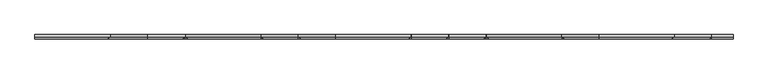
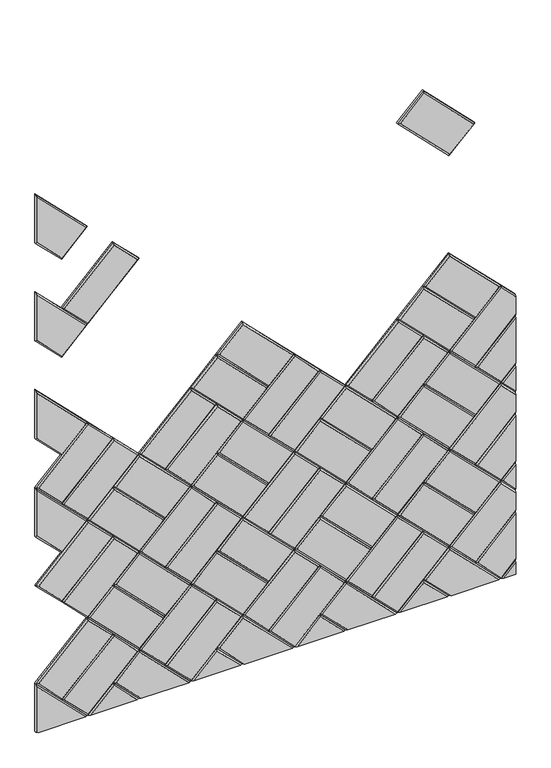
"""IFC4 building model written with IfcOpenShell, lengths in millimetres: proxy geometry, Wall_Wisteria 4.3dm."""

from ifc_helpers import new_model, si_unit, origin, place, context, project, spatial, faceted_brep, source, transform, mapped, element, save


def generic_models_0e09693b(model_context):
    return source(origin(), model_context, "Body", "Brep", [
        faceted_brep([(3978.3082201, 12.0, 1937.6733118), (3762.8097032, 12.0, 2153.2270852), (3870.5865899, 12.0, 2260.9763436), (4086.0851068, 12.0, 2045.4225703), (3978.3082201, 6.0, 1937.6733118), (4086.0851068, 6.0, 2045.4225703), (3870.5865899, 6.0, 2260.9763436), (3762.8097032, 6.0, 2153.2270852), (3870.5855022, 0.0, 2252.4910623), (3771.2949845, 0.0, 2153.2259975), (3978.3093078, 0.0, 1946.1585931), (4077.5998255, 0.0, 2045.423658)], [[[0, 1, 2, 3]], [[4, 0, 3, 5]], [[5, 3, 2, 6]], [[6, 2, 1, 7]], [[7, 1, 0, 4]], [[8, 9, 10, 11]], [[4, 5, 11, 10]], [[5, 6, 8, 11]], [[6, 7, 9, 8]], [[7, 4, 10, 9]]]),
        faceted_brep([(2361.8483335, 12.0, 1830.117992), (2577.4021069, 12.0, 2045.6165089), (2685.1513653, 12.0, 1937.8396222), (2469.5975919, 12.0, 1722.3411053), (2361.8483335, 6.0, 1830.117992), (2469.5975919, 6.0, 1722.3411053), (2685.1513653, 6.0, 1937.8396222), (2577.4021069, 6.0, 2045.6165089), (2676.666084, 0.0, 1937.8407099), (2577.4010192, 0.0, 2037.1312275), (2370.3336148, 0.0, 1830.1169043), (2469.5986797, 0.0, 1730.8263866)], [[[0, 1, 2, 3]], [[4, 0, 3, 5]], [[5, 3, 2, 6]], [[6, 2, 1, 7]], [[7, 1, 0, 4]], [[8, 9, 10, 11]], [[4, 5, 11, 10]], [[5, 6, 8, 11]], [[6, 7, 9, 8]], [[7, 4, 10, 9]]]),
        faceted_brep([(2254.2096042, 12.0, 1937.7848781), (2469.597608, 12.0, 1722.3416461), (2361.8207213, 12.0, 1614.5923876), (2254.2096042, 12.0, 1722.2310976), (2361.8207213, 6.0, 1614.5923876), (2469.597608, 6.0, 1722.3416461), (2254.2096042, 6.0, 1937.7848781), (2254.2096042, 6.0, 1722.2310976), (2254.2096042, 0.0, 1929.2985088), (2254.2096042, 0.0, 1730.7174669), (2361.821809, 0.0, 1623.0776689), (2461.1123267, 0.0, 1722.3427338)], [[[0, 1, 2, 3]], [[4, 2, 1, 5]], [[0, 6, 5, 1]], [[7, 3, 2, 4]], [[8, 9, 10, 11]], [[4, 5, 11, 10]], [[6, 8, 11, 5]], [[9, 7, 4, 10]], [[0, 3, 7, 9, 8, 6]]]),
        faceted_brep([(2254.2096042, 12.0, 2368.892439), (2469.6528645, 12.0, 2153.3939363), (2361.8759778, 12.0, 2045.6446779), (2254.2096042, 12.0, 2153.3386586), (2361.8759778, 6.0, 2045.6446779), (2469.6528645, 6.0, 2153.3939363), (2254.2096042, 6.0, 2368.892439), (2254.2096042, 6.0, 2153.3386586), (2254.2096042, 0.0, 2360.4060697), (2254.2096042, 0.0, 2161.8250279), (2361.8770656, 0.0, 2054.1299592), (2461.1675832, 0.0, 2153.3950241)], [[[0, 1, 2, 3]], [[4, 2, 1, 5]], [[0, 6, 5, 1]], [[7, 3, 2, 4]], [[8, 9, 10, 11]], [[4, 5, 11, 10]], [[6, 8, 11, 5]], [[9, 7, 4, 10]], [[0, 3, 7, 9, 8, 6]]]),
        faceted_brep([(2684.9855797, 12.0, 644.6822106), (2900.5393531, 12.0, 860.1807274), (3008.2886115, 12.0, 752.4038407), (2792.7348381, 12.0, 536.9053239), (2684.9855797, 6.0, 644.6822106), (2792.7348381, 6.0, 536.9053239), (3008.2886115, 6.0, 752.4038407), (2900.5393531, 6.0, 860.1807274), (2999.8033302, 0.0, 752.4049285), (2900.5382654, 0.0, 851.6954461), (2693.470861, 0.0, 644.6811228), (2792.7359259, 0.0, 545.3906052)], [[[0, 1, 2, 3]], [[4, 0, 3, 5]], [[5, 3, 2, 6]], [[6, 2, 1, 7]], [[7, 1, 0, 4]], [[8, 9, 10, 11]], [[4, 5, 11, 10]], [[5, 6, 8, 11]], [[6, 7, 9, 8]], [[7, 4, 10, 9]]]),
        faceted_brep([(2792.7348381, 12.0, 536.9053239), (3008.2886115, 12.0, 752.4038407), (3116.03787, 12.0, 644.626954), (2900.4840966, 12.0, 429.1284372), (2792.7348381, 6.0, 536.9053239), (2900.4840966, 6.0, 429.1284372), (3116.03787, 6.0, 644.626954), (3008.2886115, 6.0, 752.4038407), (3107.5525887, 0.0, 644.6280418), (3008.2875238, 0.0, 743.9185594), (2801.2201194, 0.0, 536.9042361), (2900.4851843, 0.0, 437.6137185)], [[[0, 1, 2, 3]], [[4, 0, 3, 5]], [[5, 3, 2, 6]], [[6, 2, 1, 7]], [[7, 1, 0, 4]], [[8, 9, 10, 11]], [[4, 5, 11, 10]], [[5, 6, 8, 11]], [[6, 7, 9, 8]], [[7, 4, 10, 9]]]),
        faceted_brep([(2792.707226, 12.0, 321.3797195), (2577.2087091, 12.0, 536.9334929), (2684.9855958, 12.0, 644.6827513), (2900.4841127, 12.0, 429.128978), (2792.707226, 6.0, 321.3797195), (2900.4841127, 6.0, 429.128978), (2684.9855958, 6.0, 644.6827513), (2577.2087091, 6.0, 536.9334929), (2684.984508, 0.0, 636.19747), (2585.6939904, 0.0, 536.9324052), (2792.7083137, 0.0, 329.8650008), (2891.9988313, 0.0, 429.1300657)], [[[0, 1, 2, 3]], [[4, 0, 3, 5]], [[5, 3, 2, 6]], [[6, 2, 1, 7]], [[7, 1, 0, 4]], [[8, 9, 10, 11]], [[4, 5, 11, 10]], [[5, 6, 8, 11]], [[6, 7, 9, 8]], [[7, 4, 10, 9]]]),
        faceted_brep([(2684.9303393, 12.0, 213.6304611), (2469.4318224, 12.0, 429.1842345), (2577.2087091, 12.0, 536.9334929), (2792.707226, 12.0, 321.3797195), (2684.9303393, 6.0, 213.6304611), (2792.707226, 6.0, 321.3797195), (2577.2087091, 6.0, 536.9334929), (2469.4318224, 6.0, 429.1842345), (2577.2076214, 0.0, 528.4482116), (2477.9171037, 0.0, 429.1831467), (2684.931427, 0.0, 222.1157424), (2784.2219447, 0.0, 321.3808072)], [[[0, 1, 2, 3]], [[4, 0, 3, 5]], [[5, 3, 2, 6]], [[6, 2, 1, 7]], [[7, 1, 0, 4]], [[8, 9, 10, 11]], [[4, 5, 11, 10]], [[5, 6, 8, 11]], [[6, 7, 9, 8]], [[7, 4, 10, 9]]]),
        faceted_brep([(2254.2096042, 12.0, 645.0142357), (2469.4870789, 12.0, 860.2365247), (2577.2363373, 12.0, 752.459638), (2361.6825639, 12.0, 536.9611212), (2254.2096042, 12.0, 644.4616384), (2254.2096042, 6.0, 644.4616384), (2361.6825639, 6.0, 536.9611212), (2577.2363373, 6.0, 752.459638), (2469.4870789, 6.0, 860.2365247), (2254.2096042, 6.0, 645.0142357), (2568.751056, 0.0, 752.4607258), (2469.4859912, 0.0, 851.7512434), (2262.4185868, 0.0, 644.7369201), (2361.6836517, 0.0, 545.4464025), (2254.2096042, 5.8046273, 644.7379724)], [[[0, 1, 2, 3, 4]], [[5, 4, 3, 6]], [[6, 3, 2, 7]], [[7, 2, 1, 8]], [[0, 9, 8, 1]], [[10, 11, 12, 13]], [[14, 5, 6, 13, 12]], [[6, 7, 10, 13]], [[7, 8, 11, 10]], [[9, 14, 12, 11, 8]], [[0, 4, 5, 14, 9]]]),
        faceted_brep([(2361.6825639, 12.0, 536.9611212), (2577.2363373, 12.0, 752.459638), (2684.9855958, 12.0, 644.6827513), (2469.4318224, 12.0, 429.1842345), (2361.6825639, 6.0, 536.9611212), (2469.4318224, 6.0, 429.1842345), (2684.9855958, 6.0, 644.6827513), (2577.2363373, 6.0, 752.459638), (2676.5003145, 0.0, 644.6838391), (2577.2352496, 0.0, 743.9743567), (2370.1678452, 0.0, 536.9600334), (2469.4329101, 0.0, 437.6695158)], [[[0, 1, 2, 3]], [[4, 0, 3, 5]], [[5, 3, 2, 6]], [[6, 2, 1, 7]], [[7, 1, 0, 4]], [[8, 9, 10, 11]], [[4, 5, 11, 10]], [[5, 6, 8, 11]], [[6, 7, 9, 8]], [[7, 4, 10, 9]]]),
        faceted_brep([(2792.7624825, 12.0, 752.4320098), (2577.2639656, 12.0, 967.9857832), (2685.0408523, 12.0, 1075.7350416), (2900.5393692, 12.0, 860.1812682), (2792.7624825, 6.0, 752.4320098), (2900.5393692, 6.0, 860.1812682), (2685.0408523, 6.0, 1075.7350416), (2577.2639656, 6.0, 967.9857832), (2685.0397646, 0.0, 1067.2497603), (2585.7492469, 0.0, 967.9846955), (2792.7635702, 0.0, 760.9172911), (2892.0540879, 0.0, 860.182356)], [[[0, 1, 2, 3]], [[4, 0, 3, 5]], [[5, 3, 2, 6]], [[6, 2, 1, 7]], [[7, 1, 0, 4]], [[8, 9, 10, 11]], [[4, 5, 11, 10]], [[5, 6, 8, 11]], [[6, 7, 9, 8]], [[7, 4, 10, 9]]]),
        faceted_brep([(2684.9855958, 12.0, 644.6827513), (2469.4870789, 12.0, 860.2365247), (2577.2639656, 12.0, 967.9857832), (2792.7624825, 12.0, 752.4320098), (2684.9855958, 6.0, 644.6827513), (2792.7624825, 6.0, 752.4320098), (2577.2639656, 6.0, 967.9857832), (2469.4870789, 6.0, 860.2365247), (2577.2628779, 0.0, 959.5005019), (2477.9723602, 0.0, 860.235437), (2684.9866835, 0.0, 653.1680327), (2784.2772012, 0.0, 752.4330975)], [[[0, 1, 2, 3]], [[4, 0, 3, 5]], [[5, 3, 2, 6]], [[6, 2, 1, 7]], [[7, 1, 0, 4]], [[8, 9, 10, 11]], [[4, 5, 11, 10]], [[5, 6, 8, 11]], [[6, 7, 9, 8]], [[7, 4, 10, 9]]]),
        faceted_brep([(3547.0901442, 12.0, 644.5711567), (3762.6439176, 12.0, 860.0696736), (3870.393176, 12.0, 752.2927869), (3654.8394026, 12.0, 536.79427), (3547.0901442, 6.0, 644.5711567), (3654.8394026, 6.0, 536.79427), (3870.393176, 6.0, 752.2927869), (3762.6439176, 6.0, 860.0696736), (3861.9078947, 0.0, 752.2938746), (3762.6428298, 0.0, 851.5843923), (3555.5754255, 0.0, 644.570069), (3654.8404903, 0.0, 545.2795513)], [[[0, 1, 2, 3]], [[4, 0, 3, 5]], [[5, 3, 2, 6]], [[6, 2, 1, 7]], [[7, 1, 0, 4]], [[8, 9, 10, 11]], [[4, 5, 11, 10]], [[5, 6, 8, 11]], [[6, 7, 9, 8]], [[7, 4, 10, 9]]]),
        faceted_brep([(3654.8394026, 12.0, 536.79427), (3870.393176, 12.0, 752.2927869), (3978.1424344, 12.0, 644.5159002), (3762.588661, 12.0, 429.0173833), (3654.8394026, 6.0, 536.79427), (3762.588661, 6.0, 429.0173833), (3978.1424344, 6.0, 644.5159002), (3870.393176, 6.0, 752.2927869), (3969.6571531, 0.0, 644.5169879), (3870.3920883, 0.0, 743.8075056), (3663.3246839, 0.0, 536.7931823), (3762.5897488, 0.0, 437.5026647)], [[[0, 1, 2, 3]], [[4, 0, 3, 5]], [[5, 3, 2, 6]], [[6, 2, 1, 7]], [[7, 1, 0, 4]], [[8, 9, 10, 11]], [[4, 5, 11, 10]], [[5, 6, 8, 11]], [[6, 7, 9, 8]], [[7, 4, 10, 9]]]),
        faceted_brep([(3654.8117904, 12.0, 321.2686657), (3439.3132735, 12.0, 536.8224391), (3547.0901602, 12.0, 644.5716975), (3762.5886771, 12.0, 429.0179241), (3654.8117904, 6.0, 321.2686657), (3762.5886771, 6.0, 429.0179241), (3547.0901602, 6.0, 644.5716975), (3439.3132735, 6.0, 536.8224391), (3547.0890725, 0.0, 636.0864162), (3447.7985548, 0.0, 536.8213514), (3654.8128781, 0.0, 329.753947), (3754.1033958, 0.0, 429.0190119)], [[[0, 1, 2, 3]], [[4, 0, 3, 5]], [[5, 3, 2, 6]], [[6, 2, 1, 7]], [[7, 1, 0, 4]], [[8, 9, 10, 11]], [[4, 5, 11, 10]], [[5, 6, 8, 11]], [[6, 7, 9, 8]], [[7, 4, 10, 9]]]),
        faceted_brep([(3547.0349037, 12.0, 213.5194073), (3331.5363868, 12.0, 429.0731806), (3439.3132735, 12.0, 536.8224391), (3654.8117904, 12.0, 321.2686657), (3547.0349037, 6.0, 213.5194073), (3654.8117904, 6.0, 321.2686657), (3439.3132735, 6.0, 536.8224391), (3331.5363868, 6.0, 429.0731806), (3439.3121858, 0.0, 528.3371578), (3340.0216682, 0.0, 429.0720929), (3547.0359914, 0.0, 222.0046886), (3646.3265091, 0.0, 321.2697534)], [[[0, 1, 2, 3]], [[4, 0, 3, 5]], [[5, 3, 2, 6]], [[6, 2, 1, 7]], [[7, 1, 0, 4]], [[8, 9, 10, 11]], [[4, 5, 11, 10]], [[5, 6, 8, 11]], [[6, 7, 9, 8]], [[7, 4, 10, 9]]]),
        faceted_brep([(3116.03787, 12.0, 644.626954), (3331.5916434, 12.0, 860.1254709), (3439.3409018, 12.0, 752.3485842), (3223.7871284, 12.0, 536.8500673), (3116.03787, 6.0, 644.626954), (3223.7871284, 6.0, 536.8500673), (3439.3409018, 6.0, 752.3485842), (3331.5916434, 6.0, 860.1254709), (3430.8556205, 0.0, 752.3496719), (3331.5905556, 0.0, 851.6401896), (3124.5231513, 0.0, 644.6258663), (3223.7882161, 0.0, 545.3353487)], [[[0, 1, 2, 3]], [[4, 0, 3, 5]], [[5, 3, 2, 6]], [[6, 2, 1, 7]], [[7, 1, 0, 4]], [[8, 9, 10, 11]], [[4, 5, 11, 10]], [[5, 6, 8, 11]], [[6, 7, 9, 8]], [[7, 4, 10, 9]]]),
        faceted_brep([(3223.7871284, 12.0, 536.8500673), (3439.3409018, 12.0, 752.3485842), (3547.0901602, 12.0, 644.5716975), (3331.5363868, 12.0, 429.0731806), (3223.7871284, 6.0, 536.8500673), (3331.5363868, 6.0, 429.0731806), (3547.0901602, 6.0, 644.5716975), (3439.3409018, 6.0, 752.3485842), (3538.6048789, 0.0, 644.5727853), (3439.3398141, 0.0, 743.8633029), (3232.2724097, 0.0, 536.8489796), (3331.5374746, 0.0, 437.558462)], [[[0, 1, 2, 3]], [[4, 0, 3, 5]], [[5, 3, 2, 6]], [[6, 2, 1, 7]], [[7, 1, 0, 4]], [[8, 9, 10, 11]], [[4, 5, 11, 10]], [[5, 6, 8, 11]], [[6, 7, 9, 8]], [[7, 4, 10, 9]]]),
        faceted_brep([(3654.8670469, 12.0, 752.320956), (3439.3685301, 12.0, 967.8747294), (3547.1454168, 12.0, 1075.6239878), (3762.6439336, 12.0, 860.0702144), (3654.8670469, 6.0, 752.320956), (3762.6439336, 6.0, 860.0702144), (3547.1454168, 6.0, 1075.6239878), (3439.3685301, 6.0, 967.8747294), (3547.144329, 0.0, 1067.1387065), (3447.8538114, 0.0, 967.8736416), (3654.8681347, 0.0, 760.8062373), (3754.1586523, 0.0, 860.0713021)], [[[0, 1, 2, 3]], [[4, 0, 3, 5]], [[5, 3, 2, 6]], [[6, 2, 1, 7]], [[7, 1, 0, 4]], [[8, 9, 10, 11]], [[4, 5, 11, 10]], [[5, 6, 8, 11]], [[6, 7, 9, 8]], [[7, 4, 10, 9]]]),
        faceted_brep([(3547.0901602, 12.0, 644.5716975), (3331.5916434, 12.0, 860.1254709), (3439.3685301, 12.0, 967.8747294), (3654.8670469, 12.0, 752.320956), (3547.0901602, 6.0, 644.5716975), (3654.8670469, 6.0, 752.320956), (3439.3685301, 6.0, 967.8747294), (3331.5916434, 6.0, 860.1254709), (3439.3674423, 0.0, 959.3894481), (3340.0769247, 0.0, 860.1243832), (3547.091248, 0.0, 653.0569788), (3646.3817656, 0.0, 752.3220437)], [[[0, 1, 2, 3]], [[4, 0, 3, 5]], [[5, 3, 2, 6]], [[6, 2, 1, 7]], [[7, 1, 0, 4]], [[8, 9, 10, 11]], [[4, 5, 11, 10]], [[5, 6, 8, 11]], [[6, 7, 9, 8]], [[7, 4, 10, 9]]]),
        faceted_brep([(4254.2096042, 12.0, 368.3779434), (4193.6409513, 12.0, 428.9621268), (4254.2096042, 12.0, 489.5152531), (4254.2096042, 6.0, 489.5152531), (4193.6409513, 6.0, 428.9621268), (4254.2096042, 6.0, 368.3779434), (4254.2096042, 0.0, 376.8643127), (4254.2096042, 0.0, 481.0310593), (4202.1262326, 0.0, 428.9610391)], [[[0, 1, 2]], [[3, 2, 1, 4]], [[0, 5, 4, 1]], [[6, 7, 8]], [[7, 3, 4, 8]], [[5, 6, 8, 4]], [[0, 2, 3, 7, 6, 5]]]),
        faceted_brep([(4254.2096042, 12.0, 705.0137771), (4085.8916929, 12.0, 536.7390135), (3978.1424344, 12.0, 644.5159002), (4193.6962078, 12.0, 860.0144171), (4254.2096042, 12.0, 799.4855044), (3978.1424344, 6.0, 644.5159002), (4085.8916929, 6.0, 536.7390135), (4254.2096042, 6.0, 705.0137771), (4254.2096042, 6.0, 799.4855044), (4193.6962078, 6.0, 860.0144171), (4254.2096042, 0.0, 713.4979709), (4254.2096042, 0.0, 790.9991351), (4193.6951201, 0.0, 851.5291358), (3986.6277157, 0.0, 644.5148125), (4085.8927806, 0.0, 545.2242948)], [[[0, 1, 2, 3, 4]], [[5, 2, 1, 6]], [[0, 7, 6, 1]], [[8, 4, 3, 9]], [[9, 3, 2, 5]], [[10, 11, 12, 13, 14]], [[5, 6, 14, 13]], [[7, 10, 14, 6]], [[11, 8, 9, 12]], [[9, 5, 13, 12]], [[0, 4, 8, 11, 10, 7]]]),
        faceted_brep([(4254.2096042, 12.0, 489.5152531), (4193.6409513, 12.0, 428.9621268), (4085.8916929, 12.0, 536.7390135), (4254.2096042, 12.0, 705.0137771), (4085.8916929, 6.0, 536.7390135), (4193.6409513, 6.0, 428.9621268), (4254.2096042, 6.0, 489.5152531), (4254.2096042, 6.0, 705.0137771), (4254.2096042, 0.0, 497.999447), (4254.2096042, 0.0, 696.5295832), (4094.3769742, 0.0, 536.7379258), (4193.642039, 0.0, 437.4474081)], [[[0, 1, 2, 3]], [[4, 2, 1, 5]], [[0, 6, 5, 1]], [[7, 3, 2, 4]], [[8, 9, 10, 11]], [[4, 5, 11, 10]], [[6, 8, 11, 5]], [[9, 7, 4, 10]], [[0, 3, 7, 9, 8, 6]]]),
        faceted_brep([(4254.2096042, 12.0, 799.4855044), (4193.6962078, 12.0, 860.0144171), (4254.2096042, 12.0, 920.512301), (4254.2096042, 6.0, 920.512301), (4193.6962078, 6.0, 860.0144171), (4254.2096042, 6.0, 799.4855044), (4254.2096042, 0.0, 807.9718737), (4254.2096042, 0.0, 912.0281072), (4202.1814891, 0.0, 860.0133294)], [[[0, 1, 2]], [[3, 2, 1, 4]], [[0, 5, 4, 1]], [[6, 7, 8]], [[7, 3, 4, 8]], [[5, 6, 8, 4]], [[0, 2, 3, 7, 6, 5]]]),
        faceted_brep([(3116.0931265, 12.0, 1075.6792443), (3331.6468999, 12.0, 1291.1777612), (3439.3961583, 12.0, 1183.4008745), (3223.8423849, 12.0, 967.9023576), (3116.0931265, 6.0, 1075.6792443), (3223.8423849, 6.0, 967.9023576), (3439.3961583, 6.0, 1183.4008745), (3331.6468999, 6.0, 1291.1777612), (3430.910877, 0.0, 1183.4019622), (3331.6458122, 0.0, 1282.6924799), (3124.5784078, 0.0, 1075.6781566), (3223.8434727, 0.0, 976.3876389)], [[[0, 1, 2, 3]], [[4, 0, 3, 5]], [[5, 3, 2, 6]], [[6, 2, 1, 7]], [[7, 1, 0, 4]], [[8, 9, 10, 11]], [[4, 5, 11, 10]], [[5, 6, 8, 11]], [[6, 7, 9, 8]], [[7, 4, 10, 9]]]),
        faceted_brep([(3223.8423849, 12.0, 967.9023576), (3439.3961583, 12.0, 1183.4008745), (3547.1454168, 12.0, 1075.6239878), (3331.5916434, 12.0, 860.1254709), (3223.8423849, 6.0, 967.9023576), (3331.5916434, 6.0, 860.1254709), (3547.1454168, 6.0, 1075.6239878), (3439.3961583, 6.0, 1183.4008745), (3538.6601355, 0.0, 1075.6250755), (3439.3950706, 0.0, 1174.9155932), (3232.3276662, 0.0, 967.9012699), (3331.5927311, 0.0, 868.6107522)], [[[0, 1, 2, 3]], [[4, 0, 3, 5]], [[5, 3, 2, 6]], [[6, 2, 1, 7]], [[7, 1, 0, 4]], [[8, 9, 10, 11]], [[4, 5, 11, 10]], [[5, 6, 8, 11]], [[6, 7, 9, 8]], [[7, 4, 10, 9]]]),
        faceted_brep([(3223.8147727, 12.0, 752.3767533), (3008.3162559, 12.0, 967.9305267), (3116.0931426, 12.0, 1075.6797851), (3331.5916594, 12.0, 860.1260117), (3223.8147727, 6.0, 752.3767533), (3331.5916594, 6.0, 860.1260117), (3116.0931426, 6.0, 1075.6797851), (3008.3162559, 6.0, 967.9305267), (3116.0920548, 0.0, 1067.1945038), (3016.8015372, 0.0, 967.9294389), (3223.8158605, 0.0, 760.8620346), (3323.1063781, 0.0, 860.1270994)], [[[0, 1, 2, 3]], [[4, 0, 3, 5]], [[5, 3, 2, 6]], [[6, 2, 1, 7]], [[7, 1, 0, 4]], [[8, 9, 10, 11]], [[4, 5, 11, 10]], [[5, 6, 8, 11]], [[6, 7, 9, 8]], [[7, 4, 10, 9]]]),
        faceted_brep([(3116.037886, 12.0, 644.6274948), (2900.5393692, 12.0, 860.1812682), (3008.3162559, 12.0, 967.9305267), (3223.8147727, 12.0, 752.3767533), (3116.037886, 6.0, 644.6274948), (3223.8147727, 6.0, 752.3767533), (3008.3162559, 6.0, 967.9305267), (2900.5393692, 6.0, 860.1812682), (3008.3151681, 0.0, 959.4452454), (2909.0246505, 0.0, 860.1801805), (3116.0389738, 0.0, 653.1127761), (3215.3294914, 0.0, 752.377841)], [[[0, 1, 2, 3]], [[4, 0, 3, 5]], [[5, 3, 2, 6]], [[6, 2, 1, 7]], [[7, 1, 0, 4]], [[8, 9, 10, 11]], [[4, 5, 11, 10]], [[5, 6, 8, 11]], [[6, 7, 9, 8]], [[7, 4, 10, 9]]]),
        faceted_brep([(2685.0408523, 12.0, 1075.7350416), (2900.5946257, 12.0, 1291.2335585), (3008.3438841, 12.0, 1183.4566718), (2792.7901107, 12.0, 967.9581549), (2685.0408523, 6.0, 1075.7350416), (2792.7901107, 6.0, 967.9581549), (3008.3438841, 6.0, 1183.4566718), (2900.5946257, 6.0, 1291.2335585), (2999.8586028, 0.0, 1183.4577595), (2900.593538, 0.0, 1282.7482772), (2693.5261336, 0.0, 1075.7339539), (2792.7911985, 0.0, 976.4434362)], [[[0, 1, 2, 3]], [[4, 0, 3, 5]], [[5, 3, 2, 6]], [[6, 2, 1, 7]], [[7, 1, 0, 4]], [[8, 9, 10, 11]], [[4, 5, 11, 10]], [[5, 6, 8, 11]], [[6, 7, 9, 8]], [[7, 4, 10, 9]]]),
        faceted_brep([(2792.7901107, 12.0, 967.9581549), (3008.3438841, 12.0, 1183.4566718), (3116.0931426, 12.0, 1075.6797851), (2900.5393692, 12.0, 860.1812682), (2792.7901107, 6.0, 967.9581549), (2900.5393692, 6.0, 860.1812682), (3116.0931426, 6.0, 1075.6797851), (3008.3438841, 6.0, 1183.4566718), (3107.6078613, 0.0, 1075.6808728), (3008.3427964, 0.0, 1174.9713905), (2801.275392, 0.0, 967.9570672), (2900.5404569, 0.0, 868.6665495)], [[[0, 1, 2, 3]], [[4, 0, 3, 5]], [[5, 3, 2, 6]], [[6, 2, 1, 7]], [[7, 1, 0, 4]], [[8, 9, 10, 11]], [[4, 5, 11, 10]], [[5, 6, 8, 11]], [[6, 7, 9, 8]], [[7, 4, 10, 9]]]),
        faceted_brep([(3223.8700293, 12.0, 1183.4290435), (3008.3715124, 12.0, 1398.9828169), (3116.1483991, 12.0, 1506.7320754), (3331.646916, 12.0, 1291.178302), (3223.8700293, 6.0, 1183.4290435), (3331.646916, 6.0, 1291.178302), (3116.1483991, 6.0, 1506.7320754), (3008.3715124, 6.0, 1398.9828169), (3116.1473114, 0.0, 1498.2467941), (3016.8567937, 0.0, 1398.9817292), (3223.871117, 0.0, 1191.9143248), (3323.1616347, 0.0, 1291.1793897)], [[[0, 1, 2, 3]], [[4, 0, 3, 5]], [[5, 3, 2, 6]], [[6, 2, 1, 7]], [[7, 1, 0, 4]], [[8, 9, 10, 11]], [[4, 5, 11, 10]], [[5, 6, 8, 11]], [[6, 7, 9, 8]], [[7, 4, 10, 9]]]),
        faceted_brep([(3116.0931426, 12.0, 1075.6797851), (2900.5946257, 12.0, 1291.2335585), (3008.3715124, 12.0, 1398.9828169), (3223.8700293, 12.0, 1183.4290435), (3116.0931426, 6.0, 1075.6797851), (3223.8700293, 6.0, 1183.4290435), (3008.3715124, 6.0, 1398.9828169), (2900.5946257, 6.0, 1291.2335585), (3008.3704247, 0.0, 1390.4975356), (2909.079907, 0.0, 1291.2324708), (3116.0942303, 0.0, 1084.1650664), (3215.384748, 0.0, 1183.4301313)], [[[0, 1, 2, 3]], [[4, 0, 3, 5]], [[5, 3, 2, 6]], [[6, 2, 1, 7]], [[7, 1, 0, 4]], [[8, 9, 10, 11]], [[4, 5, 11, 10]], [[5, 6, 8, 11]], [[6, 7, 9, 8]], [[7, 4, 10, 9]]]),
        faceted_brep([(4254.2096042, 12.0, 1136.010825), (4085.9469494, 12.0, 967.7913038), (3978.197691, 12.0, 1075.5681905), (4193.7514643, 12.0, 1291.0667074), (4254.2096042, 12.0, 1230.5930653), (3978.197691, 6.0, 1075.5681905), (4085.9469494, 6.0, 967.7913038), (4254.2096042, 6.0, 1136.010825), (4254.2096042, 6.0, 1230.5930653), (4193.7514643, 6.0, 1291.0667074), (4254.2096042, 0.0, 1144.4950188), (4254.2096042, 0.0, 1222.106696), (4193.7503766, 0.0, 1282.5814261), (3986.6829723, 0.0, 1075.5671028), (4085.9480371, 0.0, 976.2765851)], [[[0, 1, 2, 3, 4]], [[5, 2, 1, 6]], [[0, 7, 6, 1]], [[8, 4, 3, 9]], [[9, 3, 2, 5]], [[10, 11, 12, 13, 14]], [[5, 6, 14, 13]], [[7, 10, 14, 6]], [[11, 8, 9, 12]], [[9, 5, 13, 12]], [[0, 4, 8, 11, 10, 7]]]),
        faceted_brep([(4254.2096042, 12.0, 920.512301), (4193.6962078, 12.0, 860.0144171), (4085.9469494, 12.0, 967.7913038), (4254.2096042, 12.0, 1136.010825), (4085.9469494, 6.0, 967.7913038), (4193.6962078, 6.0, 860.0144171), (4254.2096042, 6.0, 920.512301), (4254.2096042, 6.0, 1136.010825), (4254.2096042, 0.0, 928.9964949), (4254.2096042, 0.0, 1127.5266311), (4094.4322307, 0.0, 967.7902161), (4193.6972956, 0.0, 868.4996984)], [[[0, 1, 2, 3]], [[4, 2, 1, 5]], [[0, 6, 5, 1]], [[7, 3, 2, 4]], [[8, 9, 10, 11]], [[4, 5, 11, 10]], [[6, 8, 11, 5]], [[9, 7, 4, 10]], [[0, 3, 7, 9, 8, 6]]]),
        faceted_brep([(4085.9193372, 12.0, 752.2656994), (3870.4208203, 12.0, 967.8194728), (3978.197707, 12.0, 1075.5687313), (4193.6962239, 12.0, 860.0149579), (4085.9193372, 6.0, 752.2656994), (4193.6962239, 6.0, 860.0149579), (3978.197707, 6.0, 1075.5687313), (3870.4208203, 6.0, 967.8194728), (3978.1966193, 0.0, 1067.08345), (3878.9061016, 0.0, 967.8183851), (4085.9204249, 0.0, 760.7509808), (4185.2109426, 0.0, 860.0160456)], [[[0, 1, 2, 3]], [[4, 0, 3, 5]], [[5, 3, 2, 6]], [[6, 2, 1, 7]], [[7, 1, 0, 4]], [[8, 9, 10, 11]], [[4, 5, 11, 10]], [[5, 6, 8, 11]], [[6, 7, 9, 8]], [[7, 4, 10, 9]]]),
        faceted_brep([(3978.1424505, 12.0, 644.516441), (3762.6439336, 12.0, 860.0702144), (3870.4208203, 12.0, 967.8194728), (4085.9193372, 12.0, 752.2656994), (3978.1424505, 6.0, 644.516441), (4085.9193372, 6.0, 752.2656994), (3870.4208203, 6.0, 967.8194728), (3762.6439336, 6.0, 860.0702144), (3870.4197326, 0.0, 959.3341915), (3771.1292149, 0.0, 860.0691267), (3978.1435382, 0.0, 653.0017223), (4077.4340559, 0.0, 752.2667872)], [[[0, 1, 2, 3]], [[4, 0, 3, 5]], [[5, 3, 2, 6]], [[6, 2, 1, 7]], [[7, 1, 0, 4]], [[8, 9, 10, 11]], [[4, 5, 11, 10]], [[5, 6, 8, 11]], [[6, 7, 9, 8]], [[7, 4, 10, 9]]]),
        faceted_brep([(3547.1454168, 12.0, 1075.6239878), (3762.6991902, 12.0, 1291.1225047), (3870.4484486, 12.0, 1183.345618), (3654.8946752, 12.0, 967.8471011), (3547.1454168, 6.0, 1075.6239878), (3654.8946752, 6.0, 967.8471011), (3870.4484486, 6.0, 1183.345618), (3762.6991902, 6.0, 1291.1225047), (3861.9631673, 0.0, 1183.3467057), (3762.6981024, 0.0, 1282.6372234), (3555.6306981, 0.0, 1075.6229001), (3654.8957629, 0.0, 976.3323824)], [[[0, 1, 2, 3]], [[4, 0, 3, 5]], [[5, 3, 2, 6]], [[6, 2, 1, 7]], [[7, 1, 0, 4]], [[8, 9, 10, 11]], [[4, 5, 11, 10]], [[5, 6, 8, 11]], [[6, 7, 9, 8]], [[7, 4, 10, 9]]]),
        faceted_brep([(3654.8946752, 12.0, 967.8471011), (3870.4484486, 12.0, 1183.345618), (3978.197707, 12.0, 1075.5687313), (3762.6439336, 12.0, 860.0702144), (3654.8946752, 6.0, 967.8471011), (3762.6439336, 6.0, 860.0702144), (3978.197707, 6.0, 1075.5687313), (3870.4484486, 6.0, 1183.345618), (3969.7124257, 0.0, 1075.569819), (3870.4473609, 0.0, 1174.8603367), (3663.3799565, 0.0, 967.8460134), (3762.6450214, 0.0, 868.5554957)], [[[0, 1, 2, 3]], [[4, 0, 3, 5]], [[5, 3, 2, 6]], [[6, 2, 1, 7]], [[7, 1, 0, 4]], [[8, 9, 10, 11]], [[4, 5, 11, 10]], [[5, 6, 8, 11]], [[6, 7, 9, 8]], [[7, 4, 10, 9]]]),
        faceted_brep([(4085.9745937, 12.0, 1183.3179897), (3870.4760768, 12.0, 1398.8717631), (3978.2529635, 12.0, 1506.6210215), (4193.7514804, 12.0, 1291.0672482), (4085.9745937, 6.0, 1183.3179897), (4193.7514804, 6.0, 1291.0672482), (3978.2529635, 6.0, 1506.6210215), (3870.4760768, 6.0, 1398.8717631), (3978.2518758, 0.0, 1498.1357402), (3878.9613582, 0.0, 1398.8706754), (4085.9756815, 0.0, 1191.803271), (4185.2661991, 0.0, 1291.0683359)], [[[0, 1, 2, 3]], [[4, 0, 3, 5]], [[5, 3, 2, 6]], [[6, 2, 1, 7]], [[7, 1, 0, 4]], [[8, 9, 10, 11]], [[4, 5, 11, 10]], [[5, 6, 8, 11]], [[6, 7, 9, 8]], [[7, 4, 10, 9]]]),
        faceted_brep([(3978.197707, 12.0, 1075.5687313), (3762.6991902, 12.0, 1291.1225047), (3870.4760768, 12.0, 1398.8717631), (4085.9745937, 12.0, 1183.3179897), (3978.197707, 6.0, 1075.5687313), (4085.9745937, 6.0, 1183.3179897), (3870.4760768, 6.0, 1398.8717631), (3762.6991902, 6.0, 1291.1225047), (3870.4749891, 0.0, 1390.3864818), (3771.1844715, 0.0, 1291.1214169), (3978.1987948, 0.0, 1084.0540126), (4077.4893124, 0.0, 1183.3190774)], [[[0, 1, 2, 3]], [[4, 0, 3, 5]], [[5, 3, 2, 6]], [[6, 2, 1, 7]], [[7, 1, 0, 4]], [[8, 9, 10, 11]], [[4, 5, 11, 10]], [[5, 6, 8, 11]], [[6, 7, 9, 8]], [[7, 4, 10, 9]]]),
        faceted_brep([(2254.2096042, 12.0, 1076.0112836), (2469.5423354, 12.0, 1291.288815), (2577.2915939, 12.0, 1183.5119283), (2361.7378205, 12.0, 968.0134114), (2254.2096042, 12.0, 1075.5691993), (2254.2096042, 6.0, 1075.5691993), (2361.7378205, 6.0, 968.0134114), (2577.2915939, 6.0, 1183.5119283), (2469.5423354, 6.0, 1291.288815), (2254.2096042, 6.0, 1076.0112836), (2568.8063126, 0.0, 1183.513016), (2469.5412477, 0.0, 1282.8035337), (2262.4738433, 0.0, 1075.7892104), (2361.7389082, 0.0, 976.4986927), (2254.2096042, 5.8436996, 1075.7902698)], [[[0, 1, 2, 3, 4]], [[5, 4, 3, 6]], [[6, 3, 2, 7]], [[7, 2, 1, 8]], [[0, 9, 8, 1]], [[10, 11, 12, 13]], [[14, 5, 6, 13, 12]], [[6, 7, 10, 13]], [[7, 8, 11, 10]], [[9, 14, 12, 11, 8]], [[0, 4, 5, 14, 9]]]),
        faceted_brep([(2361.7378205, 12.0, 968.0134114), (2577.2915939, 12.0, 1183.5119283), (2685.0408523, 12.0, 1075.7350416), (2469.4870789, 12.0, 860.2365247), (2361.7378205, 6.0, 968.0134114), (2469.4870789, 6.0, 860.2365247), (2685.0408523, 6.0, 1075.7350416), (2577.2915939, 6.0, 1183.5119283), (2676.555571, 0.0, 1075.7361293), (2577.2905061, 0.0, 1175.026647), (2370.2231018, 0.0, 968.0123237), (2469.4881666, 0.0, 868.721806)], [[[0, 1, 2, 3]], [[4, 0, 3, 5]], [[5, 3, 2, 6]], [[6, 2, 1, 7]], [[7, 1, 0, 4]], [[8, 9, 10, 11]], [[4, 5, 11, 10]], [[5, 6, 8, 11]], [[6, 7, 9, 8]], [[7, 4, 10, 9]]]),
        faceted_brep([(2254.2096042, 12.0, 1075.5697562), (2469.487095, 12.0, 860.2370655), (2361.7102083, 12.0, 752.4878071), (2254.2096042, 12.0, 860.0159757), (2361.7102083, 6.0, 752.4878071), (2469.487095, 6.0, 860.2370655), (2254.2096042, 6.0, 1075.5697562), (2254.2096042, 6.0, 860.0159757), (2254.2096042, 0.0, 1067.0833869), (2254.2096042, 0.0, 868.502345), (2361.711296, 0.0, 760.9730884), (2461.0018137, 0.0, 860.2381533)], [[[0, 1, 2, 3]], [[4, 2, 1, 5]], [[0, 6, 5, 1]], [[7, 3, 2, 4]], [[8, 9, 10, 11]], [[4, 5, 11, 10]], [[6, 8, 11, 5]], [[9, 7, 4, 10]], [[0, 3, 7, 9, 8, 6]]]),
        faceted_brep([(2254.2096042, 12.0, 1506.6773171), (2469.5423515, 12.0, 1291.2893558), (2361.7654648, 12.0, 1183.5400974), (2254.2096042, 12.0, 1291.1235367), (2361.7654648, 6.0, 1183.5400974), (2469.5423515, 6.0, 1291.2893558), (2254.2096042, 6.0, 1506.6773171), (2254.2096042, 6.0, 1291.1235367), (2254.2096042, 0.0, 1498.1909478), (2254.2096042, 0.0, 1299.609906), (2361.7665525, 0.0, 1192.0253787), (2461.0570702, 0.0, 1291.2904435)], [[[0, 1, 2, 3]], [[4, 2, 1, 5]], [[0, 6, 5, 1]], [[7, 3, 2, 4]], [[8, 9, 10, 11]], [[4, 5, 11, 10]], [[6, 8, 11, 5]], [[9, 7, 4, 10]], [[0, 3, 7, 9, 8, 6]]]),
        faceted_brep([(2683.0075129, 12.0, 0.0), (2577.1534526, 12.0, 105.8812026), (2684.9303393, 12.0, 213.6304611), (2898.5060369, 12.0, 0.0), (2898.5060369, 6.0, 0.0), (2684.9303393, 6.0, 213.6304611), (2577.1534526, 6.0, 105.8812026), (2683.0075129, 6.0, 0.0), (2691.4917068, 0.0, 0.0), (2890.021843, 0.0, 0.0), (2684.9292515, 0.0, 205.1451798), (2585.6387339, 0.0, 105.8801149)], [[[0, 1, 2, 3]], [[4, 3, 2, 5]], [[5, 2, 1, 6]], [[0, 7, 6, 1]], [[8, 9, 10, 11]], [[9, 4, 5, 10]], [[5, 6, 11, 10]], [[7, 8, 11, 6]], [[0, 3, 4, 9, 8, 7]]]),
        faceted_brep([(2471.2451007, 12.0, 0.0), (2577.1534526, 12.0, 105.8812026), (2683.0075129, 12.0, 0.0), (2683.0075129, 6.0, 0.0), (2577.1534526, 6.0, 105.8812026), (2471.2451007, 6.0, 0.0), (2479.73147, 0.0, 0.0), (2674.523319, 0.0, 0.0), (2577.1523648, 0.0, 97.3959213)], [[[0, 1, 2]], [[3, 2, 1, 4]], [[0, 5, 4, 1]], [[6, 7, 8]], [[7, 3, 4, 8]], [[5, 6, 8, 4]], [[0, 2, 3, 7, 6, 5]]]),
        faceted_brep([(3545.001052, 12.0, 0.0), (3439.258017, 12.0, 105.7701488), (3547.0349037, 12.0, 213.5194073), (3760.499576, 12.0, 0.0), (3760.499576, 6.0, 0.0), (3547.0349037, 6.0, 213.5194073), (3439.258017, 6.0, 105.7701488), (3545.001052, 6.0, 0.0), (3553.4852459, 0.0, 0.0), (3752.0153821, 0.0, 0.0), (3547.033816, 0.0, 205.034126), (3447.7432983, 0.0, 105.7690611)], [[[0, 1, 2, 3]], [[4, 3, 2, 5]], [[5, 2, 1, 6]], [[0, 7, 6, 1]], [[8, 9, 10, 11]], [[9, 4, 5, 10]], [[5, 6, 11, 10]], [[7, 8, 11, 6]], [[0, 3, 4, 9, 8, 7]]]),
        faceted_brep([(3333.4607474, 12.0, 0.0), (3439.258017, 12.0, 105.7701488), (3545.001052, 12.0, 0.0), (3545.001052, 6.0, 0.0), (3439.258017, 6.0, 105.7701488), (3333.4607474, 6.0, 0.0), (3341.9471167, 0.0, 0.0), (3536.5168581, 0.0, 0.0), (3439.2569293, 0.0, 97.2848675)], [[[0, 1, 2]], [[3, 2, 1, 4]], [[0, 5, 4, 1]], [[6, 7, 8]], [[7, 3, 4, 8]], [[5, 6, 8, 4]], [[0, 2, 3, 7, 6, 5]]]),
        faceted_brep([(4254.2096042, 12.0, 0.0), (4195.6763942, 12.0, 0.0), (4254.2096042, 12.0, 58.5182052), (4195.6763942, 6.0, 0.0), (4254.2096042, 6.0, 58.5182052), (4204.1627635, 0.0, 0.0), (4254.2096042, 0.0, 0.0), (4254.2096042, 0.0, 50.0340113)], [[[0, 1, 2]], [[1, 3, 4, 2]], [[5, 6, 7]], [[7, 4, 3, 5]], [[5, 3, 1, 0, 6]], [[0, 2, 4, 7, 6]]]),
        faceted_brep([(3115.9826135, 12.0, 213.5746638), (3331.5363868, 12.0, 429.0731806), (3439.2856453, 12.0, 321.296294), (3223.7318719, 12.0, 105.7977771), (3115.9826135, 6.0, 213.5746638), (3223.7318719, 6.0, 105.7977771), (3439.2856453, 6.0, 321.296294), (3331.5363868, 6.0, 429.0731806), (3430.800364, 0.0, 321.2973817), (3331.5352991, 0.0, 420.5878993), (3124.4678948, 0.0, 213.573576), (3223.7329596, 0.0, 114.2830584)], [[[0, 1, 2, 3]], [[4, 0, 3, 5]], [[5, 3, 2, 6]], [[6, 2, 1, 7]], [[7, 1, 0, 4]], [[8, 9, 10, 11]], [[4, 5, 11, 10]], [[5, 6, 8, 11]], [[6, 7, 9, 8]], [[7, 4, 10, 9]]]),
        faceted_brep([(3329.502528, 12.0, 0.0), (3223.7318719, 12.0, 105.7977771), (3439.2856453, 12.0, 321.296294), (3547.0349037, 12.0, 213.5194073), (3333.4607474, 12.0, 0.0), (3329.502528, 6.0, 0.0), (3223.7318719, 6.0, 105.7977771), (3333.4607474, 6.0, 0.0), (3547.0349037, 6.0, 213.5194073), (3439.2856453, 6.0, 321.296294), (3538.5496224, 0.0, 213.520495), (3439.2845576, 0.0, 312.8110126), (3232.2171532, 0.0, 105.7966894), (3331.4822181, 0.0, 6.5061717), (3331.481384, 4.6005582, 0.0)], [[[0, 1, 2, 3, 4]], [[0, 5, 6, 1]], [[7, 4, 3, 8]], [[8, 3, 2, 9]], [[9, 2, 1, 6]], [[10, 11, 12, 13]], [[5, 14, 13, 12, 6]], [[14, 7, 8, 10, 13]], [[8, 9, 11, 10]], [[9, 6, 12, 11]], [[0, 4, 7, 14, 5]]]),
        faceted_brep([(3114.0045608, 12.0, 0.0), (3008.2057428, 12.0, 105.8259461), (3115.9826295, 12.0, 213.5752046), (3329.5030848, 12.0, 0.0), (3329.5030848, 6.0, 0.0), (3115.9826295, 6.0, 213.5752046), (3008.2057428, 6.0, 105.8259461), (3114.0045608, 6.0, 0.0), (3122.4887547, 0.0, 0.0), (3321.0188909, 0.0, 0.0), (3115.9815418, 0.0, 205.0899233), (3016.6910241, 0.0, 105.8248584)], [[[0, 1, 2, 3]], [[4, 3, 2, 5]], [[5, 2, 1, 6]], [[0, 7, 6, 1]], [[8, 9, 10, 11]], [[9, 4, 5, 10]], [[5, 6, 11, 10]], [[7, 8, 11, 6]], [[0, 3, 4, 9, 8, 7]]]),
        faceted_brep([(2902.3526616, 12.0, 0.0), (3008.2057428, 12.0, 105.8259461), (3114.0045608, 12.0, 0.0), (3114.0045608, 6.0, 0.0), (3008.2057428, 6.0, 105.8259461), (2902.3526616, 6.0, 0.0), (2910.8390309, 0.0, 0.0), (3105.520367, 0.0, 0.0), (3008.2046551, 0.0, 97.3406648)], [[[0, 1, 2]], [[3, 2, 1, 4]], [[0, 5, 4, 1]], [[6, 7, 8]], [[7, 3, 4, 8]], [[5, 6, 8, 4]], [[0, 2, 3, 7, 6, 5]]]),
        faceted_brep([(2684.9303393, 12.0, 213.6304611), (2900.4841127, 12.0, 429.128978), (3008.2333711, 12.0, 321.3520913), (2792.6795977, 12.0, 105.8535744), (2684.9303393, 6.0, 213.6304611), (2792.6795977, 6.0, 105.8535744), (3008.2333711, 6.0, 321.3520913), (2900.4841127, 6.0, 429.128978), (2999.7480898, 0.0, 321.353179), (2900.4830249, 0.0, 420.6436966), (2693.4156206, 0.0, 213.6293734), (2792.6806854, 0.0, 114.3388557)], [[[0, 1, 2, 3]], [[4, 0, 3, 5]], [[5, 3, 2, 6]], [[6, 2, 1, 7]], [[7, 1, 0, 4]], [[8, 9, 10, 11]], [[4, 5, 11, 10]], [[5, 6, 8, 11]], [[6, 7, 9, 8]], [[7, 4, 10, 9]]]),
        faceted_brep([(2898.5060369, 12.0, 0.0), (2792.6795977, 12.0, 105.8535744), (3008.2333711, 12.0, 321.3520913), (3115.9826295, 12.0, 213.5752046), (2902.3526616, 12.0, 0.0), (2898.5060369, 6.0, 0.0), (2792.6795977, 6.0, 105.8535744), (2902.3526616, 6.0, 0.0), (3115.9826295, 6.0, 213.5752046), (3008.2333711, 6.0, 321.3520913), (3107.4973482, 0.0, 213.5762923), (3008.2322834, 0.0, 312.86681), (2801.164879, 0.0, 105.8524867), (2900.4299439, 0.0, 6.561969), (2900.4291027, 4.6400128, 0.0)], [[[0, 1, 2, 3, 4]], [[0, 5, 6, 1]], [[7, 4, 3, 8]], [[8, 3, 2, 9]], [[9, 2, 1, 6]], [[10, 11, 12, 13]], [[5, 14, 13, 12, 6]], [[14, 7, 8, 10, 13]], [[8, 9, 11, 10]], [[9, 6, 12, 11]], [[0, 4, 7, 14, 5]]]),
        faceted_brep([(3223.7595162, 12.0, 321.324463), (3008.2609993, 12.0, 536.8782364), (3116.037886, 12.0, 644.6274948), (3331.5364029, 12.0, 429.0737214), (3223.7595162, 6.0, 321.324463), (3331.5364029, 6.0, 429.0737214), (3116.037886, 6.0, 644.6274948), (3008.2609993, 6.0, 536.8782364), (3116.0367983, 0.0, 636.1422135), (3016.7462807, 0.0, 536.8771487), (3223.760604, 0.0, 329.8097443), (3323.0511216, 0.0, 429.0748092)], [[[0, 1, 2, 3]], [[4, 0, 3, 5]], [[5, 3, 2, 6]], [[6, 2, 1, 7]], [[7, 1, 0, 4]], [[8, 9, 10, 11]], [[4, 5, 11, 10]], [[5, 6, 8, 11]], [[6, 7, 9, 8]], [[7, 4, 10, 9]]]),
        faceted_brep([(3115.9826295, 12.0, 213.5752046), (2900.4841127, 12.0, 429.128978), (3008.2609993, 12.0, 536.8782364), (3223.7595162, 12.0, 321.324463), (3115.9826295, 6.0, 213.5752046), (3223.7595162, 6.0, 321.324463), (3008.2609993, 6.0, 536.8782364), (2900.4841127, 6.0, 429.128978), (3008.2599116, 0.0, 528.3929551), (2908.969394, 0.0, 429.1278902), (3115.9837173, 0.0, 222.0604859), (3215.2742349, 0.0, 321.3255507)], [[[0, 1, 2, 3]], [[4, 0, 3, 5]], [[5, 3, 2, 6]], [[6, 2, 1, 7]], [[7, 1, 0, 4]], [[8, 9, 10, 11]], [[4, 5, 11, 10]], [[5, 6, 8, 11]], [[6, 7, 9, 8]], [[7, 4, 10, 9]]]),
        faceted_brep([(4254.2096042, 12.0, 274.0167291), (4085.8364364, 12.0, 105.6867233), (3978.0871779, 12.0, 213.46361), (4193.6409513, 12.0, 428.9621268), (4254.2096042, 12.0, 368.3779434), (3978.0871779, 6.0, 213.46361), (4085.8364364, 6.0, 105.6867233), (4254.2096042, 6.0, 274.0167291), (4254.2096042, 6.0, 368.3779434), (4193.6409513, 6.0, 428.9621268), (4254.2096042, 0.0, 282.500923), (4254.2096042, 0.0, 359.8915741), (4193.6398636, 0.0, 420.4768455), (3986.5724592, 0.0, 213.4625222), (4085.8375241, 0.0, 114.1720046)], [[[0, 1, 2, 3, 4]], [[5, 2, 1, 6]], [[0, 7, 6, 1]], [[8, 4, 3, 9]], [[9, 3, 2, 5]], [[10, 11, 12, 13, 14]], [[5, 6, 14, 13]], [[7, 10, 14, 6]], [[11, 8, 9, 12]], [[9, 5, 13, 12]], [[0, 4, 8, 11, 10, 7]]]),
        faceted_brep([(4254.2096042, 12.0, 58.5182052), (4195.6763942, 12.0, 0.0), (4191.4960672, 12.0, 0.0), (4085.8364364, 12.0, 105.6867233), (4254.2096042, 12.0, 274.0167291), (4191.4960672, 6.0, 0.0), (4085.8364364, 6.0, 105.6867233), (4195.6763942, 6.0, 0.0), (4254.2096042, 6.0, 58.5182052), (4254.2096042, 6.0, 274.0167291), (4254.2096042, 0.0, 67.002399), (4254.2096042, 0.0, 265.5325353), (4094.3217177, 0.0, 105.6856355), (4193.5867825, 0.0, 6.3951179), (4193.5859627, 4.5220312, 0.0)], [[[0, 1, 2, 3, 4]], [[2, 5, 6, 3]], [[7, 1, 0, 8]], [[9, 4, 3, 6]], [[10, 11, 12, 13]], [[5, 14, 13, 12, 6]], [[14, 7, 8, 10, 13]], [[11, 9, 6, 12]], [[2, 1, 7, 14, 5]], [[0, 4, 9, 11, 10, 8]]]),
        faceted_brep([(3975.9980999, 12.0, 0.0), (3870.3103073, 12.0, 105.7148923), (3978.087194, 12.0, 213.4641507), (4191.4966239, 12.0, 0.0), (4191.4966239, 6.0, 0.0), (3978.087194, 6.0, 213.4641507), (3870.3103073, 6.0, 105.7148923), (3975.9980999, 6.0, 0.0), (3984.4822938, 0.0, 0.0), (4183.01243, 0.0, 0.0), (3978.0861063, 0.0, 204.9788694), (3878.7955886, 0.0, 105.7138046)], [[[0, 1, 2, 3]], [[4, 3, 2, 5]], [[5, 2, 1, 6]], [[0, 7, 6, 1]], [[8, 9, 10, 11]], [[9, 4, 5, 10]], [[5, 6, 11, 10]], [[7, 8, 11, 6]], [[0, 3, 4, 9, 8, 7]]]),
        faceted_brep([(3764.5683084, 12.0, 0.0), (3870.3103073, 12.0, 105.7148923), (3975.9980999, 12.0, 0.0), (3975.9980999, 6.0, 0.0), (3870.3103073, 6.0, 105.7148923), (3764.5683084, 6.0, 0.0), (3773.0546777, 0.0, 0.0), (3967.5139061, 0.0, 0.0), (3870.3092196, 0.0, 97.229611)], [[[0, 1, 2]], [[3, 2, 1, 4]], [[0, 5, 4, 1]], [[6, 7, 8]], [[7, 3, 4, 8]], [[5, 6, 8, 4]], [[0, 2, 3, 7, 6, 5]]]),
        faceted_brep([(3547.0349037, 12.0, 213.5194073), (3762.5886771, 12.0, 429.0179241), (3870.3379356, 12.0, 321.2410374), (3654.7841622, 12.0, 105.7425206), (3547.0349037, 6.0, 213.5194073), (3654.7841622, 6.0, 105.7425206), (3870.3379356, 6.0, 321.2410374), (3762.5886771, 6.0, 429.0179241), (3861.8526542, 0.0, 321.2421252), (3762.5875894, 0.0, 420.5326428), (3555.520185, 0.0, 213.5183195), (3654.7852499, 0.0, 114.2278019)], [[[0, 1, 2, 3]], [[4, 0, 3, 5]], [[5, 3, 2, 6]], [[6, 2, 1, 7]], [[7, 1, 0, 4]], [[8, 9, 10, 11]], [[4, 5, 11, 10]], [[5, 6, 8, 11]], [[6, 7, 9, 8]], [[7, 4, 10, 9]]]),
        faceted_brep([(3760.499576, 12.0, 0.0), (3654.7841622, 12.0, 105.7425206), (3870.3379356, 12.0, 321.2410374), (3978.087194, 12.0, 213.4641507), (3764.5683084, 12.0, 0.0), (3760.499576, 6.0, 0.0), (3654.7841622, 6.0, 105.7425206), (3764.5683084, 6.0, 0.0), (3978.087194, 6.0, 213.4641507), (3870.3379356, 6.0, 321.2410374), (3969.6019127, 0.0, 213.4652385), (3870.3368478, 0.0, 312.7557561), (3663.2694435, 0.0, 105.7414328), (3762.5345083, 0.0, 6.4509152), (3762.5336814, 4.5614859, 0.0)], [[[0, 1, 2, 3, 4]], [[0, 5, 6, 1]], [[7, 4, 3, 8]], [[8, 3, 2, 9]], [[9, 2, 1, 6]], [[10, 11, 12, 13]], [[5, 14, 13, 12, 6]], [[14, 7, 8, 10, 13]], [[8, 9, 11, 10]], [[9, 6, 12, 11]], [[0, 4, 7, 14, 5]]]),
        faceted_brep([(4085.8640807, 12.0, 321.2134092), (3870.3655638, 12.0, 536.7671826), (3978.1424505, 12.0, 644.516441), (4193.6409674, 12.0, 428.9626676), (4085.8640807, 6.0, 321.2134092), (4193.6409674, 6.0, 428.9626676), (3978.1424505, 6.0, 644.516441), (3870.3655638, 6.0, 536.7671826), (3978.1413628, 0.0, 636.0311597), (3878.8508451, 0.0, 536.7660948), (4085.8651684, 0.0, 329.6986905), (4185.1556861, 0.0, 428.9637553)], [[[0, 1, 2, 3]], [[4, 0, 3, 5]], [[5, 3, 2, 6]], [[6, 2, 1, 7]], [[7, 1, 0, 4]], [[8, 9, 10, 11]], [[4, 5, 11, 10]], [[5, 6, 8, 11]], [[6, 7, 9, 8]], [[7, 4, 10, 9]]]),
        faceted_brep([(3978.087194, 12.0, 213.4641507), (3762.5886771, 12.0, 429.0179241), (3870.3655638, 12.0, 536.7671826), (4085.8640807, 12.0, 321.2134092), (3978.087194, 6.0, 213.4641507), (4085.8640807, 6.0, 321.2134092), (3870.3655638, 6.0, 536.7671826), (3762.5886771, 6.0, 429.0179241), (3870.3644761, 0.0, 528.2819013), (3771.0739584, 0.0, 429.0168364), (3978.0882817, 0.0, 221.949432), (4077.3787994, 0.0, 321.2144969)], [[[0, 1, 2, 3]], [[4, 0, 3, 5]], [[5, 3, 2, 6]], [[6, 2, 1, 7]], [[7, 1, 0, 4]], [[8, 9, 10, 11]], [[4, 5, 11, 10]], [[5, 6, 8, 11]], [[6, 7, 9, 8]], [[7, 4, 10, 9]]]),
        faceted_brep([(2254.2096042, 12.0, 214.0171878), (2469.4318224, 12.0, 429.1842345), (2577.1810808, 12.0, 321.4073478), (2361.6273074, 12.0, 105.9088309), (2254.2096042, 12.0, 213.3540774), (2254.2096042, 6.0, 213.3540774), (2361.6273074, 6.0, 105.9088309), (2577.1810808, 6.0, 321.4073478), (2469.4318224, 6.0, 429.1842345), (2254.2096042, 6.0, 214.0171878), (2568.6957995, 0.0, 321.4084355), (2469.4307347, 0.0, 420.6989532), (2262.3633303, 0.0, 213.6846299), (2361.6283952, 0.0, 114.3941122), (2254.2096042, 5.7655551, 213.6856751)], [[[0, 1, 2, 3, 4]], [[5, 4, 3, 6]], [[6, 3, 2, 7]], [[7, 2, 1, 8]], [[0, 9, 8, 1]], [[10, 11, 12, 13]], [[14, 5, 6, 13, 12]], [[6, 7, 10, 13]], [[7, 8, 11, 10]], [[9, 14, 12, 11, 8]], [[0, 4, 5, 14, 9]]]),
        faceted_brep([(2467.5089889, 12.0, 0.0), (2361.6273074, 12.0, 105.9088309), (2577.1810808, 12.0, 321.4073478), (2684.9303393, 12.0, 213.6304611), (2471.2451007, 12.0, 0.0), (2467.5089889, 6.0, 0.0), (2361.6273074, 6.0, 105.9088309), (2471.2451007, 6.0, 0.0), (2684.9303393, 6.0, 213.6304611), (2577.1810808, 6.0, 321.4073478), (2676.445058, 0.0, 213.6315488), (2577.1799931, 0.0, 312.9220665), (2370.1125887, 0.0, 105.9077432), (2469.3776536, 0.0, 6.6172255), (2469.3768053, 4.6790851, 0.0)], [[[0, 1, 2, 3, 4]], [[0, 5, 6, 1]], [[7, 4, 3, 8]], [[8, 3, 2, 9]], [[9, 2, 1, 6]], [[10, 11, 12, 13]], [[5, 14, 13, 12, 6]], [[14, 7, 8, 10, 13]], [[8, 9, 11, 10]], [[9, 6, 12, 11]], [[0, 4, 7, 14, 5]]]),
        faceted_brep([(2254.2096042, 12.0, 213.3546343), (2467.5095457, 12.0, 0.0), (2254.2096042, 12.0, 0.0), (2467.5095457, 6.0, 0.0), (2254.2096042, 6.0, 213.3546343), (2260.4952156, 0.0, 0.0), (2459.0253518, 0.0, 0.0), (2254.2096042, 0.0, 204.868265), (2254.2096042, 0.0, 6.2872231), (2254.2096042, 4.4451682, 0.0)], [[[0, 1, 2]], [[3, 1, 0, 4]], [[5, 6, 7, 8]], [[4, 7, 6, 3]], [[9, 5, 8]], [[3, 6, 5, 9, 2, 1]], [[0, 2, 9, 8, 7, 4]]]),
    ])


if __name__ == "__main__":
    model = new_model("IFC4")
    model_context = context("Model", 3, world=origin())
    ifc_project = project(units=[si_unit("LENGTHUNIT", "METRE", prefix="MILLI")], contexts=[model_context])
    site = spatial("IfcSite", under=ifc_project)
    building = spatial("IfcBuilding", under=site)
    placement = place(None, origin())
    generic_models_shape = generic_models_0e09693b(model_context)
    element("IfcBuildingElementProxy", 1, Name="Wall_Wisteria 4.3dm", ObjectType="Wall_Wisteria 4.3dm", at=placement, inside=building, context=model_context, shape_type="MappedRepresentation", body=[
        mapped(generic_models_shape, transform((0.0, 0.0, 0.0), x_axis=(1.0, 0.0, 0.0), y_axis=(0.0, 1.0, 0.0), z_axis=(0.0, 0.0, 1.0))),
    ])
    save(model, "model.ifc")
